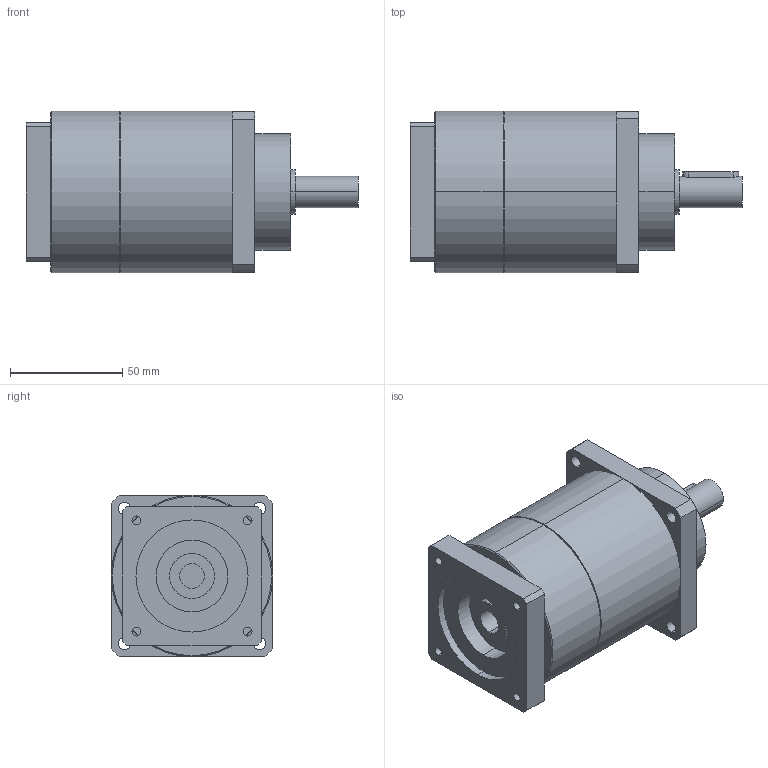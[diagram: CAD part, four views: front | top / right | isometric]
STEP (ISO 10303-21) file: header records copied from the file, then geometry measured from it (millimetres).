
FILE_DESCRIPTION(('CoCreate Modeling STEP Export'),'2;1');
FILE_NAME('GPT75_ig-9-12-16-20-25-28-35-40-50-70-100_14_B5T_11_P31.stp','2014-08-27T13:34:49',(''),(''),'CoCreate Modeling STEP processor for AP214 (Solid Model)','CoCreate Modeling 16.00C 25-Feb-2009 (C) Parametric Technology GmbH','');
FILE_SCHEMA(('AUTOMOTIVE_DESIGN { 1 0 10303 214 1 1 1 1 }'));
Length unit declared in the file: millimetre
Products named in the file (2): GPT75_ig-9-12-16-20-25-28-35-40-50-70-100_14_B5T_11_P31
Assembly tree (1 placements, depth 2):
  GPT75_ig-9-12-16-20-25-28-35-40-50-70-100_14_B5T_11_P31
    GPT75_ig-9-12-16-20-25-28-35-40-50-70-100_14_B5T_11_P31
Bounding box: 148 x 72 x 72 mm (x, y, z)
Volume: 446133.2 mm3; surface area: 42745.8 mm2
Topology: 1 solids, 1 shells, 88 faces, 226 edges, 145 vertices
Faces by surface type: cylinder 46, plane 38, cone 4
Entity records: 2676 total; most frequent: CARTESIAN_POINT 744, ORIENTED_EDGE 452, DIRECTION 334, EDGE_CURVE 226, VERTEX_POINT 145, AXIS2_PLACEMENT_3D 123, EDGE_LOOP 109, VECTOR 88
